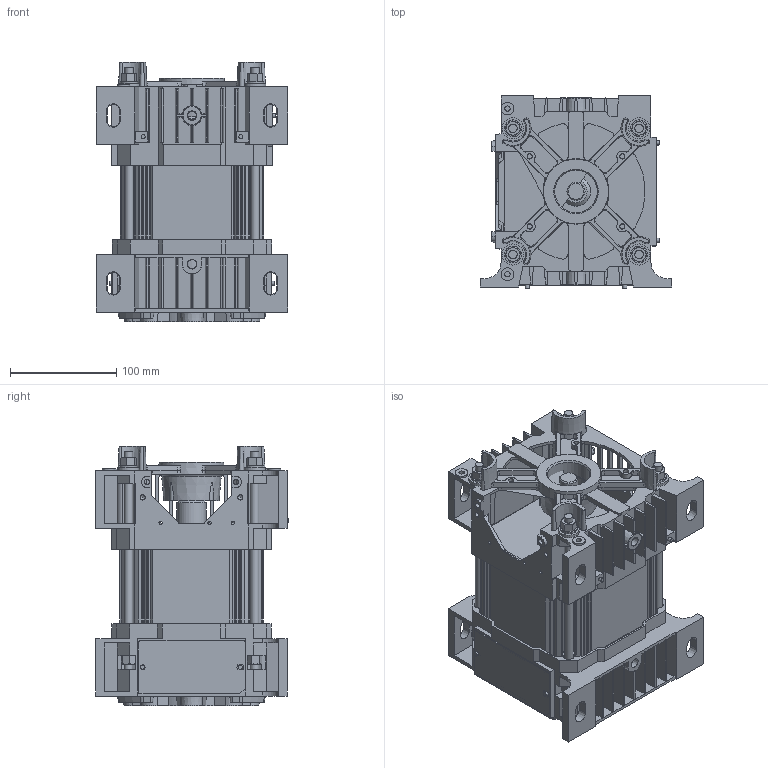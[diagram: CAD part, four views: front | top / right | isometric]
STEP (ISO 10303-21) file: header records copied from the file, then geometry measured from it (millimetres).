
FILE_DESCRIPTION(/* description */ ('Motore Tipo S31 Fl.82.55 F19-H80 NO Vol. NO Piedi'),/* implementation_level */ '2;1');
FILE_NAME(/* name */ 'Y:\ServerTecnico\Mockup Motori x Sito Elmo\Mockup Tipo S31 Size 3 FL82 F14-H80 NO Volano.stp',/* time_stamp */ '2016-10-06T09:29:49+02:00',/* author */ ('aparmini'),/* organization */ (''),/* preprocessor_version */ 'ST-DEVELOPER v16.5',/* originating_system */ 'Autodesk Inventor 2017',/* authorisation */ '');
FILE_SCHEMA (('AUTOMOTIVE_DESIGN { 1 0 10303 214 3 1 1 }'));
Length unit declared in the file: millimetre
Products named in the file (8): Mockup Tipo S31 Size 3 FL82 F14-H80 NO Volano; Mockup CP3XD040N; CA3SD082W; Mockup Statore Size 3 - F14-H80 NO Volano; TGS10; TI08ML205; DIN 125-2 - B 8,4; UNI 5587 - M8
Assembly tree (20 placements, depth 2):
  Mockup Tipo S31 Size 3 FL82 F14-H80 NO Volano
    Mockup CP3XD040N
    CA3SD082W
    Mockup Statore Size 3 - F14-H80 NO Volano
    TGS10
    UNI 5587 - M8  x8
    TI08ML205  x4
    DIN 125-2 - B 8,4  x4
Bounding box: 180 x 181 x 244 mm (x, y, z)
Volume: 2212590.9 mm3; surface area: 464564.5 mm2
Topology: 20 solids, 20 shells, 1684 faces, 4733 edges, 3088 vertices
Faces by surface type: plane 973, cone 375, cylinder 289, bspline 38, torus 9
Full cylindrical faces by diameter (mm): 3.2 x3, 4 x8, 4.917 x4, 5 x2, 6.647 x8, 8 x4, 8.4 x4, 12 x2, 14 x1, 16 x4, 17 x1, 20 x4, 21 x1, 27.5 x1, 29 x1, 40 x2, 40.1 x1, 42.5 x1, 46 x1, 82.55 x1
Entity records: 50771 total; most frequent: CARTESIAN_POINT 10419, ORIENTED_EDGE 8476, DIRECTION 8440, EDGE_CURVE 4238, AXIS2_PLACEMENT_3D 2900, VERTEX_POINT 2841, LINE 2640, VECTOR 2640
